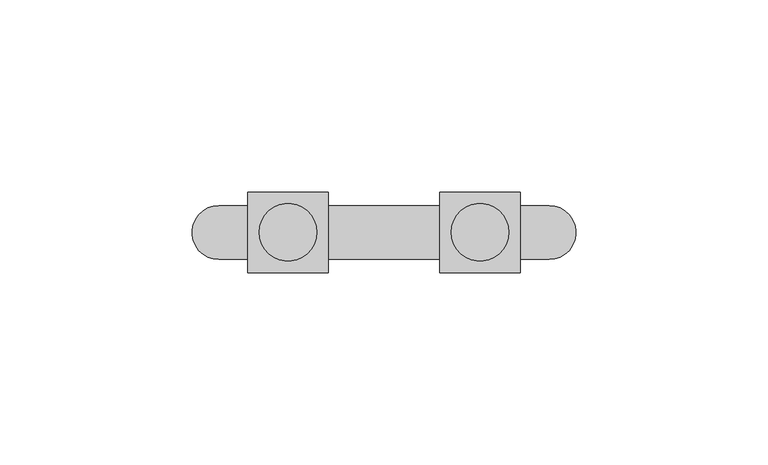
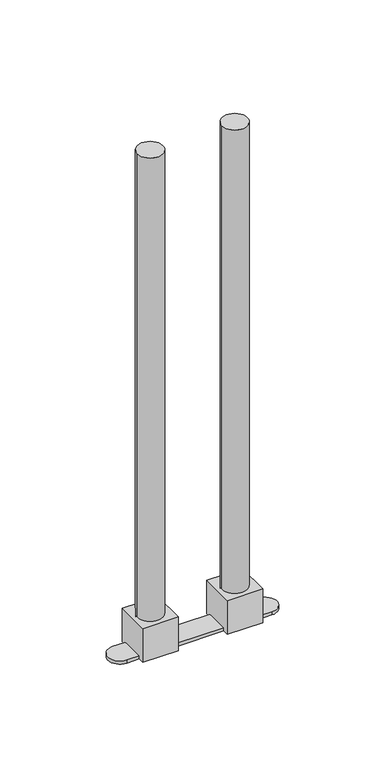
"""IFC4 building model written with IfcOpenShell, lengths in millimetres: pipe fitting geometry, KAN-therm Push kolano mosiężne zespolone ze wspornikiem L=300 : KAN-therm Push kolano mosiężne zespolone ze wspornikiem L=300."""

import ifcopenshell
import ifcopenshell.guid

model = None  # the IFC model being written
_history = None  # IfcOwnerHistory: only IFC2X3 demands one
_inside = {}  # id of a spatial element -> (the spatial element, [elements in it])
_under = {}  # id of a project, library or spatial element -> (it, [spatial elements below it])
_declared = {}  # id of a project -> (the project, [libraries it declares])
_typed = {}  # id of a type object -> (the type object, [elements of that type])
_made_of = {}  # id of a material, layer set ... -> (it, [elements and type objects made of it])


def new_model(schema):
    """Start an empty IFC model of exactly this schema.

    Asked for "IFC4X3", IfcOpenShell would pick the latest addendum, in which some entities
    have other attributes; the version numbers below select the first issue.
    IFC2X3 requires an IfcOwnerHistory on every rooted entity: one is made here for all.
    """
    global model, _history
    if schema == "IFC4X3":
        model = ifcopenshell.file(schema_version=(4, 3, 0, 0))
    else:
        model = ifcopenshell.file(schema=schema)
    _inside.clear()
    _under.clear()
    _declared.clear()
    _typed.clear()
    _made_of.clear()
    _history = None
    if model.schema == "IFC2X3":
        org = make("IfcOrganization", Name="unknown")
        user = make(
            "IfcPersonAndOrganization",
            ThePerson=make("IfcPerson", FamilyName="unknown"),
            TheOrganization=org,
        )
        app = make(
            "IfcApplication",
            ApplicationDeveloper=org,
            Version="unknown",
            ApplicationFullName="unknown",
            ApplicationIdentifier="unknown",
        )
        _history = make(
            "IfcOwnerHistory",
            OwningUser=user,
            OwningApplication=app,
            ChangeAction="ADDED",
            CreationDate=0,
        )
    return model


def make(cls, **values):
    """One entity of the class cls with the attributes given. An attribute that is None is left unset."""
    return model.create_entity(
        cls, **{name: value for name, value in values.items() if value is not None}
    )


def rooted(cls, **values):
    """An entity with a GlobalId (a new one), such as an element, a storey or a relation."""
    return make(cls, GlobalId=ifcopenshell.guid.new(), OwnerHistory=_history, **values)


def si_unit(unit_type, name, prefix=None):
    """IfcSIUnit, for example si_unit("LENGTHUNIT", "METRE", prefix="MILLI")."""
    return make("IfcSIUnit", UnitType=unit_type, Prefix=prefix, Name=name)


def assignment(units):
    """IfcUnitAssignment: the units of a project."""
    return None if units is None else make("IfcUnitAssignment", Units=units)


def point(xyz):
    """IfcCartesianPoint."""
    return None if xyz is None else make("IfcCartesianPoint", Coordinates=xyz)


def direction(xyz):
    """IfcDirection."""
    return None if xyz is None else make("IfcDirection", DirectionRatios=xyz)


def frame(location, z_axis=None, x_axis=None):
    """IfcAxis2Placement3D, a coordinate frame: its origin and axes. An axis left out is left unset."""
    return make(
        "IfcAxis2Placement3D",
        Location=point(location),
        Axis=direction(z_axis),
        RefDirection=direction(x_axis),
    )


def frame_2d(location, x_axis=None):
    """IfcAxis2Placement2D, a coordinate frame in the plane: its origin and x axis."""
    return make(
        "IfcAxis2Placement2D", Location=point(location), RefDirection=direction(x_axis)
    )


def origin():
    """The frame at (0, 0, 0) with its axes left unset."""
    return frame((0.0, 0.0, 0.0))


def origin_with_axes():
    """The frame at (0, 0, 0) with the z axis (0, 0, 1) and the x axis (1, 0, 0) written out."""
    return frame((0.0, 0.0, 0.0), z_axis=(0.0, 0.0, 1.0), x_axis=(1.0, 0.0, 0.0))


def origin_2d():
    """The frame at (0, 0) in the plane with its x axis left unset."""
    return frame_2d((0.0, 0.0))


def place(relative_to, where):
    """IfcLocalPlacement: puts the frame where relative to a parent placement (None: the world)."""
    return make(
        "IfcLocalPlacement", PlacementRelTo=relative_to, RelativePlacement=where
    )


def context(
    kind, dimensions, precision=None, world=None, true_north=None, identifier=None
):
    """IfcGeometricRepresentationContext, for example the 3D "Model" context."""
    return make(
        "IfcGeometricRepresentationContext",
        ContextIdentifier=identifier,
        ContextType=kind,
        CoordinateSpaceDimension=dimensions,
        Precision=precision,
        WorldCoordinateSystem=world,
        TrueNorth=true_north,
    )


def project(units=None, contexts=None):
    """IfcProject with its units and contexts."""
    return rooted(
        "IfcProject",
        Name="project",
        RepresentationContexts=contexts,
        UnitsInContext=assignment(units),
    )


def spatial(cls, under=None, at=None, **own):
    """A site, building, storey or space (cls), placed at a placement, below another one or the project."""
    s = rooted(cls, ObjectPlacement=at, **own)
    if under is not None:
        _under.setdefault(under.id(), (under, []))[1].append(s)
    return s


def circle_curve(where, radius):
    """IfcCircle in the frame where."""
    return make("IfcCircle", Position=where, Radius=radius)


def trimmed(basis, trim1, trim2, sense, master):
    """IfcTrimmedCurve: the piece of a basis curve between two trims."""
    return make(
        "IfcTrimmedCurve",
        BasisCurve=basis,
        Trim1=trim1,
        Trim2=trim2,
        SenseAgreement=sense,
        MasterRepresentation=master,
    )


def segment(curve, same_sense, transition):
    """IfcCompositeCurveSegment."""
    return make(
        "IfcCompositeCurveSegment",
        Transition=transition,
        SameSense=same_sense,
        ParentCurve=curve,
    )


def composite_curve(segments, self_intersect=None):
    """IfcCompositeCurve: segments joined end to end."""
    return make("IfcCompositeCurve", Segments=segments, SelfIntersect=self_intersect)


def outline(outer, holes=None, kind="AREA"):
    """IfcArbitraryClosedProfileDef: a profile drawn as a closed curve; with holes, ...WithVoids."""
    if holes is None:
        return make("IfcArbitraryClosedProfileDef", ProfileType=kind, OuterCurve=outer)
    return make(
        "IfcArbitraryProfileDefWithVoids",
        ProfileType=kind,
        OuterCurve=outer,
        InnerCurves=holes,
    )


def extrude(swept, where, along, depth):
    """IfcExtrudedAreaSolid: the profile swept, set in the frame where, extruded along a direction by depth."""
    return make(
        "IfcExtrudedAreaSolid",
        SweptArea=swept,
        Position=where,
        ExtrudedDirection=direction(along),
        Depth=depth,
    )


def shape(context_of_items, identifier, shape_type, items):
    """IfcShapeRepresentation: the items that make up one representation, for example the "Body"."""
    return make(
        "IfcShapeRepresentation",
        ContextOfItems=context_of_items,
        RepresentationIdentifier=identifier,
        RepresentationType=shape_type,
        Items=items,
    )


def source(mapping_origin, context_of_items, identifier, shape_type, items):
    """IfcRepresentationMap: a shape defined once, which mapped items show again and again."""
    return make(
        "IfcRepresentationMap",
        MappingOrigin=mapping_origin,
        MappedRepresentation=shape(context_of_items, identifier, shape_type, items),
    )


def transform(
    local_origin,
    x_axis=None,
    y_axis=None,
    z_axis=None,
    scale=None,
    scale2=None,
    scale3=None,
    uniform=True,
):
    """IfcCartesianTransformationOperator3D, or its non-uniform kind. x_axis, y_axis, z_axis: its Axis1, 2, 3."""
    if uniform:
        return make(
            "IfcCartesianTransformationOperator3D",
            Axis1=direction(x_axis),
            Axis2=direction(y_axis),
            LocalOrigin=point(local_origin),
            Scale=scale,
            Axis3=direction(z_axis),
        )
    return make(
        "IfcCartesianTransformationOperator3DnonUniform",
        Axis1=direction(x_axis),
        Axis2=direction(y_axis),
        LocalOrigin=point(local_origin),
        Scale=scale,
        Axis3=direction(z_axis),
        Scale2=scale2,
        Scale3=scale3,
    )


def mapped(mapping_source, mapping_target):
    """IfcMappedItem: shows the shape of a source again, moved by a transform."""
    return make(
        "IfcMappedItem", MappingSource=mapping_source, MappingTarget=mapping_target
    )


def made_of(thing, what):
    """Note that an element or type object is made of a material, layer set ...; save() writes the relation."""
    if what is not None:
        _made_of.setdefault(what.id(), (what, []))[1].append(thing)
    return thing


def element(
    cls,
    number,
    at=None,
    inside=None,
    cuts=None,
    type_object=None,
    material=None,
    context=None,
    identifier="Body",
    shape_type=None,
    held_by="IfcProductDefinitionShape",
    body=None,
    shapes=None,
    **own,
):
    """One element of the class cls, such as IfcWall. Its Tag is "e" and its number.

    at: its placement. inside: the storey or other place that contains it. cuts: it is an
    opening in that element (IfcRelVoidsElement). A single representation is given by context,
    identifier, shape_type and body (its items); several are given by shapes. held_by: the class
    of the entity that holds the representations. save() writes the other relations.
    """
    e = rooted(cls, Tag="e%d" % number, ObjectPlacement=at, **own)
    if body is not None:
        shapes = [shape(context, identifier, shape_type, body)]
    if shapes is not None:
        e.Representation = make(held_by, Representations=shapes)
    if inside is not None:
        _inside.setdefault(inside.id(), (inside, []))[1].append(e)
    if cuts is not None:
        rooted(
            "IfcRelVoidsElement", RelatingBuildingElement=cuts, RelatedOpeningElement=e
        )
    if type_object is not None:
        _typed.setdefault(type_object.id(), (type_object, []))[1].append(e)
    return made_of(e, material)


def aggregate(whole, parts):
    """IfcRelAggregates: a whole, such as a stair, and the parts it consists of."""
    return rooted("IfcRelAggregates", RelatingObject=whole, RelatedObjects=parts)


def save(model, path):
    """Write the relations noted so far, then the file.

    IfcRelAggregates (storeys below a building ...), IfcRelContainedInSpatialStructure (elements
    in a storey), IfcRelDefinesByType, IfcRelAssociatesMaterial and IfcRelDeclares: one each for
    every whole, place, type object, material and project.
    """
    for whole, parts in _under.values():
        aggregate(whole, parts)
    for where, things in _inside.values():
        rooted(
            "IfcRelContainedInSpatialStructure",
            RelatedElements=things,
            RelatingStructure=where,
        )
    for kind, things in _typed.values():
        rooted("IfcRelDefinesByType", RelatedObjects=things, RelatingType=kind)
    for what, things in _made_of.values():
        rooted("IfcRelAssociatesMaterial", RelatedObjects=things, RelatingMaterial=what)
    for by, libraries in _declared.values():
        rooted("IfcRelDeclares", RelatingContext=by, RelatedDefinitions=libraries)
    model.write(path)


def plane_surface(at):
    """IfcPlane: the flat surface through the origin of the frame at, square to its z axis."""
    return make("IfcPlane", Position=at)


def cylinder_surface(at, radius):
    """IfcCylindricalSurface: all points at the distance radius from the z axis of the frame at."""
    return make("IfcCylindricalSurface", Position=at, Radius=radius)


def advanced_brep(points, edges, surfaces, faces):
    """IfcAdvancedBrep: a solid bounded by faces that lie on surfaces and meet in shared edges.

    An edge is (start, end): straight between two places in points (the first is 0);
    or (start, end, curve); or (start, end, curve, False) where it runs against its curve.
    A face is (place in surfaces, loops), or (place, loops, False) where it looks against
    its surface's normal. A loop lists edges by number (the first is 1), with a minus sign
    where the edge is run from its end to its start. The first loop is the outer one.
    """
    corners = [point(p) for p in points]
    vertices = [make("IfcVertexPoint", VertexGeometry=c) for c in corners]
    made = []
    for start, end, *more in edges:
        made.append(
            make(
                "IfcEdgeCurve",
                EdgeStart=vertices[start],
                EdgeEnd=vertices[end],
                EdgeGeometry=more[0] if more else make("IfcPolyline", Points=[corners[start], corners[end]]),
                SameSense=more[1] if len(more) > 1 else True,
            )
        )
    hull = []
    for where, loops, *sense in faces:
        bounds = []
        for j, loop in enumerate(loops):
            ring = [make("IfcOrientedEdge", EdgeElement=made[abs(k) - 1], Orientation=k > 0) for k in loop]
            bounds.append(
                make(
                    "IfcFaceOuterBound" if j == 0 else "IfcFaceBound",
                    Bound=make("IfcEdgeLoop", EdgeList=ring),
                    Orientation=True,
                )
            )
        hull.append(make("IfcAdvancedFace", Bounds=bounds, FaceSurface=surfaces[where], SameSense=sense[0] if sense else True))
    return make("IfcAdvancedBrep", Outer=make("IfcClosedShell", CfsFaces=hull))


def pipe_fitting_5653471c(model_context):
    return source(origin(), model_context, "Body", "SolidModel", [
        extrude(outline(composite_curve([segment(trimmed(circle_curve(origin_2d(), 7.5), [point((-7.5, 0.0))], [point((7.5, 0.0))], False, "CARTESIAN"), True, "CONTINUOUS"), segment(trimmed(circle_curve(origin_2d(), 7.5), [point((7.5, 0.0))], [point((-7.5, 0.0))], False, "CARTESIAN"), True, "CONTINUOUS")], self_intersect=False)), origin_with_axes(), (0.0, 0.0, 1.0), 300.0),
        extrude(outline(composite_curve([segment(trimmed(circle_curve(frame_2d((50.0, 0.0)), 7.5), [point((42.5, 0.0))], [point((57.5, 0.0))], False, "CARTESIAN"), True, "CONTINUOUS"), segment(trimmed(circle_curve(frame_2d((50.0, 0.0)), 7.5), [point((57.5, 0.0))], [point((42.5, 0.0))], False, "CARTESIAN"), True, "CONTINUOUS")], self_intersect=False)), origin_with_axes(), (0.0, 0.0, 1.0), 300.0),
        advanced_brep(
        [(60.5, -10.5, 10.5), (60.5, 10.5, 10.5), (39.5, 10.5, 10.5), (39.5, -10.5, 10.5), (-18.0, -7.0, -10.5), (-18.0, 7.0, -10.5), (-10.5, 7.0, -10.5), (-10.5, 10.5, -10.5), (10.5, 10.5, -10.5), (10.5, 7.0, -10.5), (39.5, 7.0, -10.5), (39.5, 10.5, -10.5), (60.5, 10.5, -10.5), (60.5, 7.0, -10.5), (68.0, 7.0, -10.5), (68.0, -7.0, -10.5), (60.5, -7.0, -10.5), (60.5, -10.5, -10.5), (39.5, -10.5, -10.5), (39.5, -7.0, -10.5), (10.5, -7.0, -10.5), (10.5, -10.5, -10.5), (-10.5, -10.5, -10.5), (-10.5, -7.0, -10.5), (60.5, -7.0, -8.5), (60.5, 7.0, -8.5), (39.5, 7.0, -8.5), (39.5, -7.0, -8.5), (10.5, -10.5, 10.5), (10.5, 10.5, 10.5), (-10.5, 10.5, 10.5), (-10.5, -10.5, 10.5), (10.5, -7.0, -8.5), (10.5, 7.0, -8.5), (-10.5, 7.0, -8.5), (-10.5, -7.0, -8.5), (-18.0, 7.0, -8.5), (-18.0, -7.0, -8.5), (68.0, -7.0, -8.5), (68.0, 7.0, -8.5)],
        [
            (0, 1),
            (1, 2),
            (2, 3),
            (3, 0),
            (4, 5, circle_curve(frame((-18.0, 0.0, -10.5), z_axis=(0.0, 0.0, -1.0), x_axis=(1.0, 0.0, 0.0)), 7.0)),
            (5, 6),
            (6, 7),
            (7, 8),
            (8, 9),
            (9, 10),
            (10, 11),
            (11, 12),
            (12, 13),
            (13, 14),
            (14, 15, circle_curve(frame((68.0, 0.0, -10.5), z_axis=(0.0, 0.0, -1.0), x_axis=(1.0, 0.0, 0.0)), 7.0)),
            (15, 16),
            (16, 17),
            (17, 18),
            (18, 19),
            (19, 20),
            (20, 21),
            (21, 22),
            (22, 23),
            (23, 4),
            (0, 17),
            (16, 24),
            (24, 25),
            (25, 13),
            (12, 1),
            (11, 2),
            (10, 26),
            (26, 27),
            (27, 19),
            (18, 3),
            (28, 29),
            (29, 30),
            (30, 31),
            (31, 28),
            (28, 21),
            (20, 32),
            (32, 33),
            (33, 9),
            (8, 29),
            (7, 30),
            (6, 34),
            (34, 35),
            (35, 23),
            (22, 31),
            (36, 37, circle_curve(frame((-18.0, 0.0, -8.5), z_axis=(0.0, 0.0, 1.0), x_axis=(1.0, 0.0, 0.0)), 7.0)),
            (37, 35),
            (34, 36),
            (38, 39, circle_curve(frame((68.0, 0.0, -8.5), z_axis=(0.0, 0.0, 1.0), x_axis=(1.0, 0.0, 0.0)), 7.0)),
            (39, 25),
            (24, 38),
            (26, 33),
            (32, 27),
            (39, 14),
            (5, 36),
            (4, 37),
            (15, 38),
        ],
        [
            plane_surface(frame((60.5, 10.5, 10.5), z_axis=(0.0, 0.0, 1.0), x_axis=(0.0, 1.0, 0.0))),
            plane_surface(frame((60.5, 10.5, -10.5), z_axis=(0.0, 0.0, -1.0), x_axis=(0.0, -1.0, 0.0))),
            plane_surface(frame((60.5, -10.5, 10.5), z_axis=(1.0, 0.0, 0.0), x_axis=(0.0, 0.0, -1.0))),
            plane_surface(frame((60.5, 10.5, 10.5), z_axis=(0.0, 1.0, 0.0), x_axis=(0.0, 0.0, -1.0))),
            plane_surface(frame((39.5, 10.5, 10.5), z_axis=(-1.0, 0.0, 0.0), x_axis=(0.0, 0.0, -1.0))),
            plane_surface(frame((39.5, -10.5, 10.5), z_axis=(0.0, -1.0, 0.0), x_axis=(0.0, 0.0, -1.0))),
            plane_surface(frame((10.5, 10.5, 10.5), z_axis=(0.0, 0.0, 1.0), x_axis=(0.0, 1.0, 0.0))),
            plane_surface(frame((10.5, -10.5, 10.5), z_axis=(1.0, 0.0, 0.0), x_axis=(0.0, 0.0, -1.0))),
            plane_surface(frame((10.5, 10.5, 10.5), z_axis=(0.0, 1.0, 0.0), x_axis=(0.0, 0.0, -1.0))),
            plane_surface(frame((-10.5, 10.5, 10.5), z_axis=(-1.0, 0.0, 0.0), x_axis=(0.0, 0.0, -1.0))),
            plane_surface(frame((-10.5, -10.5, 10.5), z_axis=(0.0, -1.0, 0.0), x_axis=(0.0, 0.0, -1.0))),
            plane_surface(frame((2000.0, 7.0, -8.5), z_axis=(0.0, 0.0, 1.0), x_axis=(-1.0, 0.0, 0.0))),
            plane_surface(frame((68.0, 7.0, -8.5), z_axis=(0.0, 1.0, 0.0), x_axis=(0.0, 0.0, -1.0))),
            cylinder_surface(frame((-18.0, 0.0, -10.5), z_axis=(0.0, 0.0, 1.0), x_axis=(1.0, 0.0, 0.0)), 7.0),
            plane_surface(frame((-18.0, -7.0, -8.5), z_axis=(0.0, -1.0, 0.0), x_axis=(0.0, 0.0, -1.0))),
            cylinder_surface(frame((68.0, 0.0, -10.5), z_axis=(0.0, 0.0, 1.0), x_axis=(1.0, 0.0, 0.0)), 7.0),
        ],
        [
            (0, [[1, 2, 3, 4]]),
            (1, [[5, 6, 7, 8, 9, 10, 11, 12, 13, 14, 15, 16, 17, 18, 19, 20, 21, 22, 23, 24]]),
            (2, [[-1, 25, -17, 26, 27, 28, -13, 29]]),
            (3, [[-2, -29, -12, 30]]),
            (4, [[-3, -30, -11, 31, 32, 33, -19, 34]]),
            (5, [[-4, -34, -18, -25]]),
            (6, [[35, 36, 37, 38]]),
            (7, [[-35, 39, -21, 40, 41, 42, -9, 43]]),
            (8, [[-36, -43, -8, 44]]),
            (9, [[-37, -44, -7, 45, 46, 47, -23, 48]]),
            (10, [[-38, -48, -22, -39]]),
            (11, [[49, 50, -46, 51]]),
            (11, [[52, 53, -27, 54]]),
            (11, [[55, -41, 56, -32]]),
            (12, [[-10, -42, -55, -31]]),
            (12, [[57, -14, -28, -53]]),
            (12, [[58, -51, -45, -6]]),
            (13, [[-49, -58, -5, 59]]),
            (14, [[-20, -33, -56, -40]]),
            (14, [[-59, -24, -47, -50]]),
            (14, [[60, -54, -26, -16]]),
            (15, [[-52, -60, -15, -57]]),
        ],
    ),
    ])


if __name__ == "__main__":
    model = new_model("IFC4")
    model_context = context("Model", 3, world=origin())
    ifc_project = project(units=[si_unit("LENGTHUNIT", "METRE", prefix="MILLI")], contexts=[model_context])
    site = spatial("IfcSite", under=ifc_project)
    building = spatial("IfcBuilding", under=site)
    placement = place(None, origin())
    pipe_fitting_shape = pipe_fitting_5653471c(model_context)
    element("IfcPipeFitting", 1, ObjectType="KAN-therm Push kolano mosiężne zespolone ze wspornikiem L=300 : KAN-therm Push kolano mosiężne zespolone ze wspornikiem L=300", at=placement, inside=building, context=model_context, shape_type="MappedRepresentation", body=[
        mapped(pipe_fitting_shape, transform((0.0, 0.0, 0.0), x_axis=(1.0, 0.0, 0.0), y_axis=(0.0, 1.0, 0.0), z_axis=(0.0, 0.0, 1.0))),
    ])
    save(model, "model.ifc")
